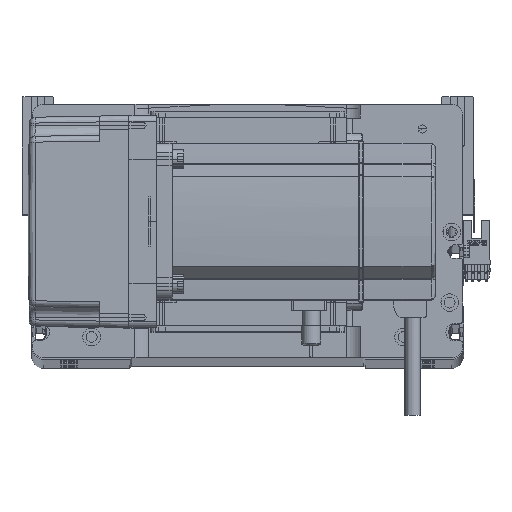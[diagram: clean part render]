
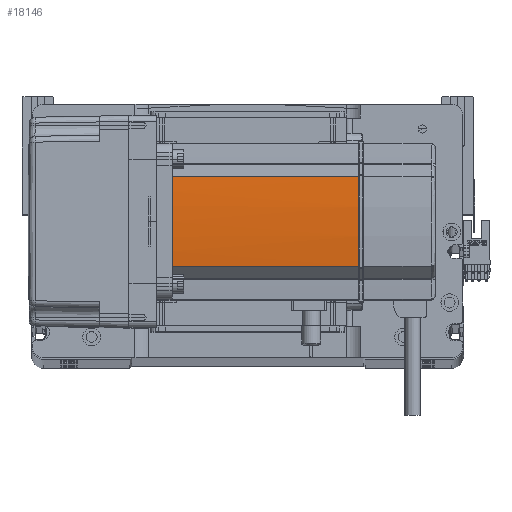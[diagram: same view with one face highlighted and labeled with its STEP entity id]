
A CAD part, top view. The second image highlights one B-rep face of the part: STEP entity #18146.
In plain terms, the highlighted cylindrical face has radius 270 mm (diameter 540 mm), a partial arc.
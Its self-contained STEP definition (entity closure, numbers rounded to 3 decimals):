
#713 = ORIENTED_EDGE ( 'NONE', *, *, #30850, .F. ) ;
#2210 = CARTESIAN_POINT ( 'NONE',  ( 40., 0.127, 134. ) ) ;
#2583 = CARTESIAN_POINT ( 'NONE',  ( 40., -0.042, 134. ) ) ;
#3136 = EDGE_CURVE ( 'NONE', #35280, #17012, #26237, .T. ) ;
#4009 = VECTOR ( 'NONE', #38186, 1000. ) ;
#4588 = AXIS2_PLACEMENT_3D ( 'NONE', #35423, #17611, #43441 ) ;
#5760 = VERTEX_POINT ( 'NONE', #22833 ) ;
#6780 = CARTESIAN_POINT ( 'NONE',  ( 40., 0.042, 134. ) ) ;
#8296 = CARTESIAN_POINT ( 'NONE',  ( -230., 0., 39. ) ) ;
#9116 = DIRECTION ( 'NONE',  ( 0., 0., 1. ) ) ;
#12464 = VERTEX_POINT ( 'NONE', #41618 ) ;
#12761 = CIRCLE ( 'NONE', #4588, 270. ) ;
#15174 = AXIS2_PLACEMENT_3D ( 'NONE', #8296, #21728, #34917 ) ;
#15397 = CARTESIAN_POINT ( 'NONE',  ( 39.042, -22.724, 58. ) ) ;
#15532 = CYLINDRICAL_SURFACE ( 'NONE', #31836, 270. ) ;
#16040 = EDGE_LOOP ( 'NONE', ( #55346, #33190, #30648, #33879, #713, #22479 ) ) ;
#17012 = VERTEX_POINT ( 'NONE', #52668 ) ;
#17611 = DIRECTION ( 'NONE',  ( 0., 0., -1. ) ) ;
#18146 = ADVANCED_FACE ( 'NONE', ( #29287 ), #15532, .T. ) ;
#19704 = CARTESIAN_POINT ( 'NONE',  ( 39.042, 22.724, 134. ) ) ;
#19926 = CARTESIAN_POINT ( 'NONE',  ( -230., 0., 58. ) ) ;
#20687 = CARTESIAN_POINT ( 'NONE',  ( 39.042, -22.724, 134. ) ) ;
#21728 = DIRECTION ( 'NONE',  ( 0., 0., -1. ) ) ;
#22479 = ORIENTED_EDGE ( 'NONE', *, *, #47364, .T. ) ;
#22833 = CARTESIAN_POINT ( 'NONE',  ( 40., -0.127, 134. ) ) ;
#23365 = CIRCLE ( 'NONE', #15174, 270. ) ;
#24721 = LINE ( 'NONE', #35762, #47947 ) ;
#25181 = VERTEX_POINT ( 'NONE', #20687 ) ;
#26237 = CIRCLE ( 'NONE', #30841, 270. ) ;
#29287 = FACE_OUTER_BOUND ( 'NONE', #16040, .T. ) ;
#30648 = ORIENTED_EDGE ( 'NONE', *, *, #44967, .T. ) ;
#30841 = AXIS2_PLACEMENT_3D ( 'NONE', #37824, #46984, #55316 ) ;
#30850 = EDGE_CURVE ( 'NONE', #5760, #17012, #50473, .T. ) ;
#31836 = AXIS2_PLACEMENT_3D ( 'NONE', #19926, #45951, #36809 ) ;
#33002 = CARTESIAN_POINT ( 'NONE',  ( 40., -0.127, 134. ) ) ;
#33190 = ORIENTED_EDGE ( 'NONE', *, *, #40663, .F. ) ;
#33879 = ORIENTED_EDGE ( 'NONE', *, *, #3136, .T. ) ;
#34917 = DIRECTION ( 'NONE',  ( -1., 0., 0. ) ) ;
#35280 = VERTEX_POINT ( 'NONE', #19704 ) ;
#35423 = CARTESIAN_POINT ( 'NONE',  ( -230., 0., 134. ) ) ;
#35762 = CARTESIAN_POINT ( 'NONE',  ( 39.042, 22.724, 58. ) ) ;
#36809 = DIRECTION ( 'NONE',  ( -1., 0., 0. ) ) ;
#37824 = CARTESIAN_POINT ( 'NONE',  ( -230., 0., 134. ) ) ;
#38186 = DIRECTION ( 'NONE',  ( 0., 0., -1. ) ) ;
#40663 = EDGE_CURVE ( 'NONE', #52106, #12464, #23365, .T. ) ;
#41618 = CARTESIAN_POINT ( 'NONE',  ( 39.042, -22.724, 39. ) ) ;
#43441 = DIRECTION ( 'NONE',  ( -1., 0., 0. ) ) ;
#44449 = CARTESIAN_POINT ( 'NONE',  ( 39.042, 22.724, 39. ) ) ;
#44967 = EDGE_CURVE ( 'NONE', #52106, #35280, #24721, .T. ) ;
#45951 = DIRECTION ( 'NONE',  ( 0., 0., -1. ) ) ;
#46984 = DIRECTION ( 'NONE',  ( 0., 0., -1. ) ) ;
#47364 = EDGE_CURVE ( 'NONE', #5760, #25181, #12761, .T. ) ;
#47947 = VECTOR ( 'NONE', #9116, 1000. ) ;
#50473 = B_SPLINE_CURVE_WITH_KNOTS ( 'NONE', 3,
 ( #33002, #2583, #6780, #2210 ),
 .UNSPECIFIED., .F., .F.,
 ( 4, 4 ),
 ( 0., 1. ),
 .UNSPECIFIED. ) ;
#50599 = LINE ( 'NONE', #15397, #4009 ) ;
#50807 = EDGE_CURVE ( 'NONE', #25181, #12464, #50599, .T. ) ;
#52106 = VERTEX_POINT ( 'NONE', #44449 ) ;
#52668 = CARTESIAN_POINT ( 'NONE',  ( 40., 0.127, 134. ) ) ;
#55316 = DIRECTION ( 'NONE',  ( -1., 0., 0. ) ) ;
#55346 = ORIENTED_EDGE ( 'NONE', *, *, #50807, .T. ) ;
